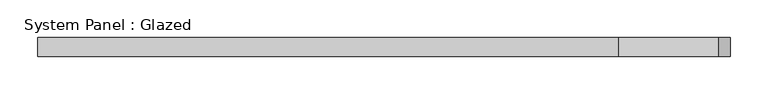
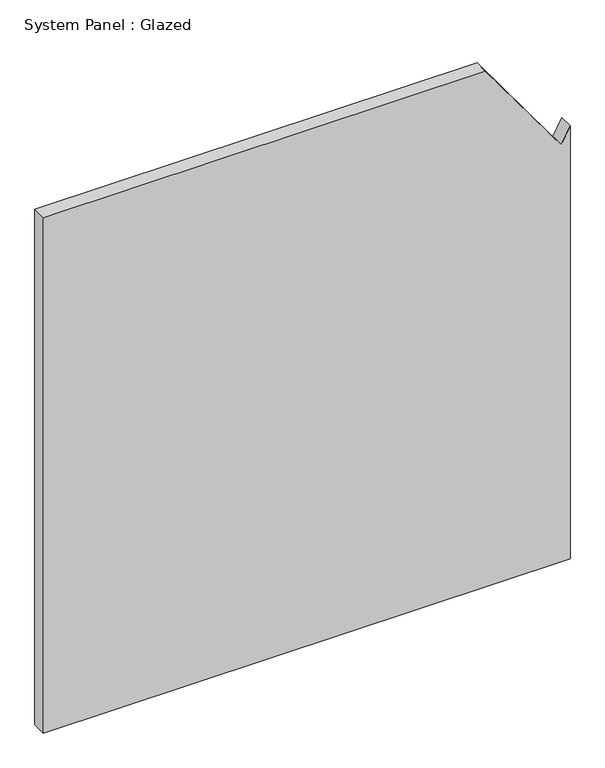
"""IFC4 building model written with IfcOpenShell, lengths in millimetres: plate geometry, System Panel : Glazed."""

from ifc_helpers import new_model, si_unit, frame, origin, place, context, project, spatial, polyline, outline, extrude, source, transform, mapped, element, save


def system_panel_glazed_fcf763ac(model_context):
    return source(origin(), model_context, "Body", "SweptSolid", [
        extrude(outline(polyline([(0.0, -459.1666667), (0.0, 459.1666667), (797.5121558, 459.1666667), (768.1228932, 443.715817), (950.0, 311.5743641), (950.0, -459.1666667), (0.0, -459.1666667)])), frame((0.0, 24.5, 0.0), z_axis=(0.0, 1.0, 0.0), x_axis=(0.0, 0.0, 1.0)), (0.0, 0.0, 1.0), 25.0),
    ])


if __name__ == "__main__":
    model = new_model("IFC4")
    model_context = context("Model", 3, world=origin())
    ifc_project = project(units=[si_unit("LENGTHUNIT", "METRE", prefix="MILLI")], contexts=[model_context])
    site = spatial("IfcSite", under=ifc_project)
    building = spatial("IfcBuilding", under=site)
    placement = place(None, origin())
    system_panel_glazed_shape = system_panel_glazed_fcf763ac(model_context)
    element("IfcPlate", 1, ObjectType="System Panel : Glazed", at=placement, inside=building, context=model_context, shape_type="MappedRepresentation", body=[
        mapped(system_panel_glazed_shape, transform((0.0, 0.0, 0.0), x_axis=(1.0, 0.0, 0.0), y_axis=(0.0, 1.0, 0.0), z_axis=(0.0, 0.0, 1.0))),
    ])
    save(model, "model.ifc")
